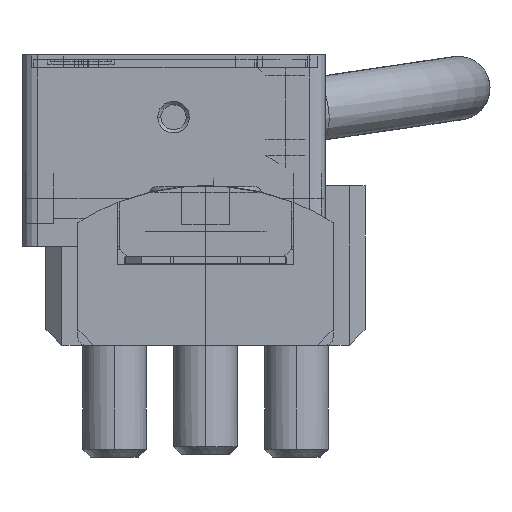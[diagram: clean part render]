
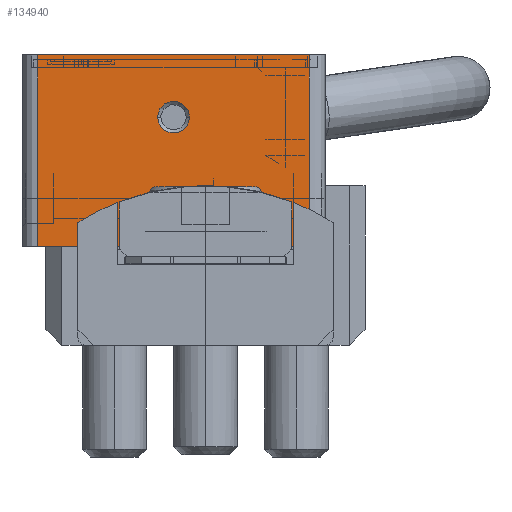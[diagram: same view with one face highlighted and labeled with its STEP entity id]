
A CAD part, left-side view. The second image highlights one B-rep face of the part: STEP entity #134940.
In plain terms, the highlighted planar face has unit normal (-1, 0, 0).
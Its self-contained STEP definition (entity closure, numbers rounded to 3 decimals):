
#116150=CARTESIAN_POINT('',(-46.,17.8,0.));
#116160=VERTEX_POINT('',#116150);
#116190=CARTESIAN_POINT('',(-46.,17.8,-6.));
#116200=DIRECTION('',(0.,0.,-1.));
#116210=VECTOR('',#116200,1.);
#116220=LINE('',#116190,#116210);
#116230=CARTESIAN_POINT('',(-46.,17.8,-12.));
#116240=VERTEX_POINT('',#116230);
#116250=EDGE_CURVE('',#116160,#116240,#116220,.T.);
#122110=CARTESIAN_POINT('',(-46.,14.272,-3.));
#122120=VERTEX_POINT('',#122110);
#122150=CARTESIAN_POINT('',(-46.,14.272,-3.006));
#122160=DIRECTION('',(0.,0.,1.));
#122170=VECTOR('',#122160,1.);
#122180=LINE('',#122150,#122170);
#122190=CARTESIAN_POINT('',(-46.,14.272,0.));
#122200=VERTEX_POINT('',#122190);
#122210=EDGE_CURVE('',#122120,#122200,#122180,.T.);
#126350=CARTESIAN_POINT('',(-46.,8.328,-3.));
#126360=VERTEX_POINT('',#126350);
#126390=CARTESIAN_POINT('',(-46.,0.,-3.));
#126400=DIRECTION('',(0.,1.,0.));
#126410=VECTOR('',#126400,1.);
#126420=LINE('',#126390,#126410);
#126430=EDGE_CURVE('',#126360,#122120,#126420,.T.);
#127910=CARTESIAN_POINT('',(-46.,0.8,0.));
#127920=VERTEX_POINT('',#127910);
#127950=CARTESIAN_POINT('',(-46.,0.,0.));
#127960=DIRECTION('',(0.,1.,0.));
#127970=VECTOR('',#127960,1.);
#127980=LINE('',#127950,#127970);
#127990=CARTESIAN_POINT('',(-46.,8.328,0.));
#128000=VERTEX_POINT('',#127990);
#128010=EDGE_CURVE('',#127920,#128000,#127980,.T.);
#128190=EDGE_CURVE('',#122200,#116160,#127980,.T.);
#131920=CARTESIAN_POINT('',(-46.,0.,-12.));
#131930=DIRECTION('',(0.,1.,0.));
#131940=VECTOR('',#131930,1.);
#131950=LINE('',#131920,#131940);
#131960=CARTESIAN_POINT('',(-46.,0.8,-12.));
#131970=VERTEX_POINT('',#131960);
#131980=EDGE_CURVE('',#131970,#116240,#131950,.T.);
#133920=CARTESIAN_POINT('',(-46.,8.328,-3.006));
#133930=DIRECTION('',(0.,0.,1.));
#133940=VECTOR('',#133930,1.);
#133950=LINE('',#133920,#133940);
#133960=EDGE_CURVE('',#126360,#128000,#133950,.T.);
#134550=CARTESIAN_POINT('',(-46.,17.8,-6.));
#134560=DIRECTION('',(-1.,0.,0.));
#134570=DIRECTION('',(0.,-1.,0.));
#134580=AXIS2_PLACEMENT_3D('',#134550,#134560,#134570);
#134590=PLANE('',#134580);
#134600=CARTESIAN_POINT('',(-46.,9.3,-8.1));
#134610=DIRECTION('',(1.,0.,0.));
#134620=DIRECTION('',(0.,0.,-1.));
#134630=AXIS2_PLACEMENT_3D('',#134600,#134610,#134620);
#134640=CIRCLE('',#134630,1.);
#134650=CARTESIAN_POINT('',(-46.,10.3,-8.1));
#134660=VERTEX_POINT('',#134650);
#134670=CARTESIAN_POINT('',(-46.,8.3,-8.1));
#134680=VERTEX_POINT('',#134670);
#134690=EDGE_CURVE('',#134660,#134680,#134640,.T.);
#134700=ORIENTED_EDGE('',*,*,#134690,.T.);
#134710=CARTESIAN_POINT('',(-46.,8.307,-8.214));
#134720=VERTEX_POINT('',#134710);
#134730=EDGE_CURVE('',#134720,#134660,#134640,.T.);
#134740=ORIENTED_EDGE('',*,*,#134730,.T.);
#134750=EDGE_CURVE('',#134680,#134720,#134640,.T.);
#134760=ORIENTED_EDGE('',*,*,#134750,.T.);
#134770=EDGE_LOOP('',(#134760,#134740,#134700));
#134780=FACE_BOUND('',#134770,.T.);
#134790=ORIENTED_EDGE('',*,*,#128190,.T.);
#134800=ORIENTED_EDGE('',*,*,#122210,.T.);
#134810=ORIENTED_EDGE('',*,*,#126430,.T.);
#134820=ORIENTED_EDGE('',*,*,#133960,.F.);
#134830=ORIENTED_EDGE('',*,*,#128010,.T.);
#134840=CARTESIAN_POINT('',(-46.,0.8,0.));
#134850=DIRECTION('',(0.,0.,-1.));
#134860=VECTOR('',#134850,1.);
#134870=LINE('',#134840,#134860);
#134880=EDGE_CURVE('',#127920,#131970,#134870,.T.);
#134890=ORIENTED_EDGE('',*,*,#134880,.F.);
#134900=ORIENTED_EDGE('',*,*,#131980,.F.);
#134910=ORIENTED_EDGE('',*,*,#116250,.T.);
#134920=EDGE_LOOP('',(#134910,#134900,#134890,#134830,#134820,#134810,
#134800,#134790));
#134930=FACE_OUTER_BOUND('',#134920,.T.);
#134940=ADVANCED_FACE('',(#134780,#134930),#134590,.T.);
